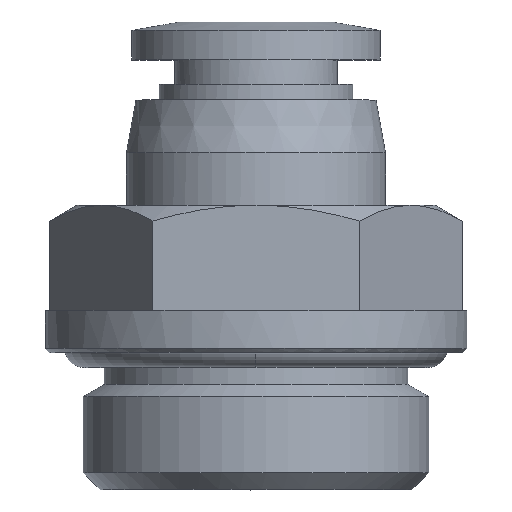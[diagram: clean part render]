
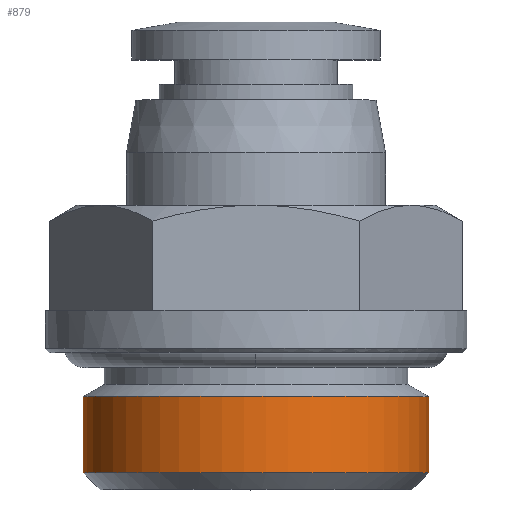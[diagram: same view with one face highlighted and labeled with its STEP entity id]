
A CAD part, top view. The second image highlights one B-rep face of the part: STEP entity #879.
In plain terms, the highlighted cylindrical face has radius 8.2 mm (diameter 16.4 mm), a partial arc.
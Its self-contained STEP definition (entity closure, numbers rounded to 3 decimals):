
#33 = CARTESIAN_POINT ( 'NONE',  ( 1.073, 0.8, 8.2 ) ) ;
#45 = CARTESIAN_POINT ( 'NONE',  ( 8.2, 4.423, 1.073 ) ) ;
#66 = CARTESIAN_POINT ( 'NONE',  ( -2.146, 0.8, 7.987 ) ) ;
#80 = CARTESIAN_POINT ( 'NONE',  ( -7.987, 4.423, 2.146 ) ) ;
#166 = EDGE_CURVE ( 'NONE', #181, #1566, #2804, .T. ) ;
#181 = VERTEX_POINT ( 'NONE', #963 ) ;
#331 = CARTESIAN_POINT ( 'NONE',  ( 7.987, 4.423, 2.146 ) ) ;
#468 = DIRECTION ( 'NONE',  ( -1., 0., 0. ) ) ;
#487 = CARTESIAN_POINT ( 'NONE',  ( -8.2, 0.8, 0. ) ) ;
#521 = CARTESIAN_POINT ( 'NONE',  ( 4.13, 0.8, 7.165 ) ) ;
#531 = CARTESIAN_POINT ( 'NONE',  ( -4.13, 4.423, 7.165 ) ) ;
#564 = CARTESIAN_POINT ( 'NONE',  ( 2.146, 4.423, 7.987 ) ) ;
#579 = CARTESIAN_POINT ( 'NONE',  ( 1.073, 4.423, 8.2 ) ) ;
#691 = CYLINDRICAL_SURFACE ( 'NONE', #2237, 8.2 ) ;
#738 = CARTESIAN_POINT ( 'NONE',  ( 0., 2.611, 0. ) ) ;
#755 = CARTESIAN_POINT ( 'NONE',  ( 6.557, 4.423, 5.039 ) ) ;
#762 = CARTESIAN_POINT ( 'NONE',  ( 6.557, 0.8, 5.039 ) ) ;
#822 = CARTESIAN_POINT ( 'NONE',  ( 4.13, 4.423, 7.165 ) ) ;
#825 = LINE ( 'NONE', #1507, #2579 ) ;
#875 = VECTOR ( 'NONE', #1589, 1000. ) ;
#879 = ADVANCED_FACE ( 'NONE', ( #2779 ), #691, .T. ) ;
#935 = CARTESIAN_POINT ( 'NONE',  ( -5.039, 0.8, 6.557 ) ) ;
#939 = ORIENTED_EDGE ( 'NONE', *, *, #1011, .T. ) ;
#963 = CARTESIAN_POINT ( 'NONE',  ( 8.2, 0.8, 0. ) ) ;
#1006 = ORIENTED_EDGE ( 'NONE', *, *, #2072, .F. ) ;
#1011 = EDGE_CURVE ( 'NONE', #2591, #2110, #1924, .T. ) ;
#1143 = CARTESIAN_POINT ( 'NONE',  ( 8.2, 4.423, 0. ) ) ;
#1167 = DIRECTION ( 'NONE',  ( 0., 1., 0. ) ) ;
#1187 = CARTESIAN_POINT ( 'NONE',  ( 7.165, 0.8, 4.13 ) ) ;
#1219 = CARTESIAN_POINT ( 'NONE',  ( -8.2, 0.8, 0. ) ) ;
#1235 = CARTESIAN_POINT ( 'NONE',  ( -4.13, 0.8, 7.165 ) ) ;
#1253 = CARTESIAN_POINT ( 'NONE',  ( -1.073, 0.8, 8.2 ) ) ;
#1264 = CARTESIAN_POINT ( 'NONE',  ( -1.073, 4.423, 8.2 ) ) ;
#1438 = CARTESIAN_POINT ( 'NONE',  ( -8.2, 4.423, 0. ) ) ;
#1450 = CARTESIAN_POINT ( 'NONE',  ( -8.2, 4.423, 1.073 ) ) ;
#1504 = CARTESIAN_POINT ( 'NONE',  ( -5.039, 4.423, 6.557 ) ) ;
#1507 = CARTESIAN_POINT ( 'NONE',  ( -8.2, 2.611, 0. ) ) ;
#1566 = VERTEX_POINT ( 'NONE', #1219 ) ;
#1589 = DIRECTION ( 'NONE',  ( 0., 1., 0. ) ) ;
#1688 = CARTESIAN_POINT ( 'NONE',  ( -8.2, 0.8, 1.073 ) ) ;
#1810 = EDGE_LOOP ( 'NONE', ( #2360, #2677, #939, #1006 ) ) ;
#1921 = DIRECTION ( 'NONE',  ( 0., 1., 0. ) ) ;
#1924 = B_SPLINE_CURVE_WITH_KNOTS ( 'NONE', 3,
 ( #2174, #45, #331, #2204, #755, #2415, #822, #564, #579, #1264, #2676, #531, #1504, #2432, #2158, #80, #1450, #1953 ),
 .UNSPECIFIED., .F., .F.,
 ( 4, 2, 2, 2, 2, 2, 2, 2, 4 ),
 ( 0.5, 0.563, 0.625, 0.688, 0.75, 0.813, 0.875, 0.938, 1. ),
 .UNSPECIFIED. ) ;
#1953 = CARTESIAN_POINT ( 'NONE',  ( -8.2, 4.423, 0. ) ) ;
#2019 = CARTESIAN_POINT ( 'NONE',  ( 8.2, 2.611, 0. ) ) ;
#2072 = EDGE_CURVE ( 'NONE', #1566, #2110, #825, .T. ) ;
#2110 = VERTEX_POINT ( 'NONE', #1438 ) ;
#2119 = CARTESIAN_POINT ( 'NONE',  ( -7.165, 0.8, 4.13 ) ) ;
#2132 = CARTESIAN_POINT ( 'NONE',  ( 8.2, 0.8, 0. ) ) ;
#2147 = CARTESIAN_POINT ( 'NONE',  ( 7.987, 0.8, 2.146 ) ) ;
#2158 = CARTESIAN_POINT ( 'NONE',  ( -7.165, 4.423, 4.13 ) ) ;
#2174 = CARTESIAN_POINT ( 'NONE',  ( 8.2, 4.423, 0. ) ) ;
#2204 = CARTESIAN_POINT ( 'NONE',  ( 7.165, 4.423, 4.13 ) ) ;
#2237 = AXIS2_PLACEMENT_3D ( 'NONE', #738, #1167, #468 ) ;
#2360 = ORIENTED_EDGE ( 'NONE', *, *, #166, .F. ) ;
#2388 = CARTESIAN_POINT ( 'NONE',  ( 8.2, 0.8, 1.073 ) ) ;
#2415 = CARTESIAN_POINT ( 'NONE',  ( 5.039, 4.423, 6.557 ) ) ;
#2432 = CARTESIAN_POINT ( 'NONE',  ( -6.557, 4.423, 5.039 ) ) ;
#2487 = LINE ( 'NONE', #2019, #875 ) ;
#2571 = CARTESIAN_POINT ( 'NONE',  ( 5.039, 0.8, 6.557 ) ) ;
#2579 = VECTOR ( 'NONE', #1921, 1000. ) ;
#2591 = VERTEX_POINT ( 'NONE', #1143 ) ;
#2605 = CARTESIAN_POINT ( 'NONE',  ( -6.557, 0.8, 5.039 ) ) ;
#2637 = CARTESIAN_POINT ( 'NONE',  ( 2.146, 0.8, 7.987 ) ) ;
#2639 = EDGE_CURVE ( 'NONE', #181, #2591, #2487, .T. ) ;
#2676 = CARTESIAN_POINT ( 'NONE',  ( -2.146, 4.423, 7.987 ) ) ;
#2677 = ORIENTED_EDGE ( 'NONE', *, *, #2639, .T. ) ;
#2779 = FACE_OUTER_BOUND ( 'NONE', #1810, .T. ) ;
#2804 = B_SPLINE_CURVE_WITH_KNOTS ( 'NONE', 3,
 ( #2132, #2388, #2147, #1187, #762, #2571, #521, #2637, #33, #1253, #66, #1235, #935, #2605, #2119, #2840, #1688, #487 ),
 .UNSPECIFIED., .F., .F.,
 ( 4, 2, 2, 2, 2, 2, 2, 2, 4 ),
 ( 0.5, 0.563, 0.625, 0.688, 0.75, 0.813, 0.875, 0.938, 1. ),
 .UNSPECIFIED. ) ;
#2840 = CARTESIAN_POINT ( 'NONE',  ( -7.987, 0.8, 2.146 ) ) ;
